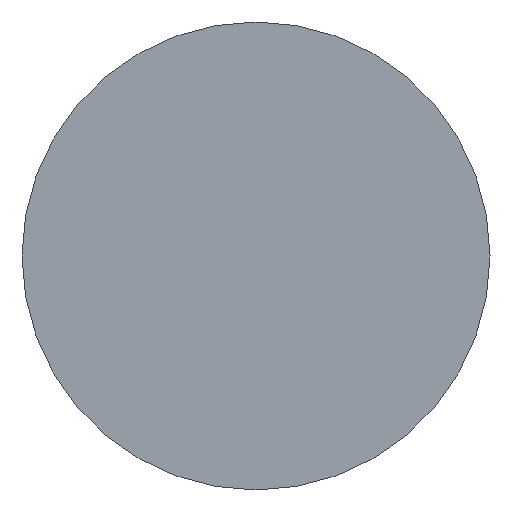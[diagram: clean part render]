
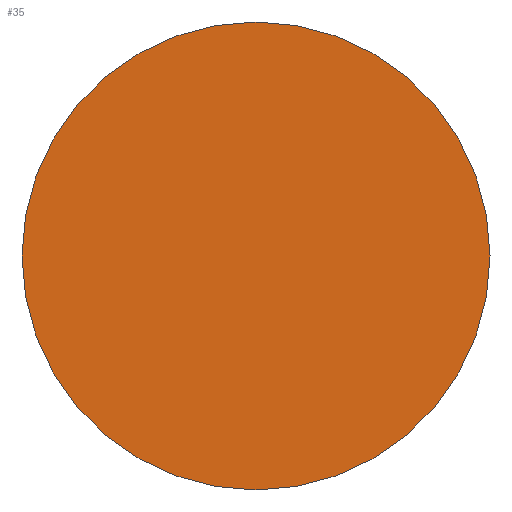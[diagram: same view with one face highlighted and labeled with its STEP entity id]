
A CAD part, front view. The second image highlights one B-rep face of the part: STEP entity #35.
In plain terms, the highlighted planar face has unit normal (0, -1, 0).
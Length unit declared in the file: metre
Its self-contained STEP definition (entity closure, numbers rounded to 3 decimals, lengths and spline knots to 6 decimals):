
#13=PLANE('',#53);
#17=ORIENTED_EDGE('',*,*,#19,.F.);
#19=EDGE_CURVE('',#21,#21,#23,.T.);
#21=VERTEX_POINT('',#71);
#23=CIRCLE('',#51,0.0035);
#27=EDGE_LOOP('',(#17));
#31=FACE_BOUND('',#27,.T.);
#35=ADVANCED_FACE('',(#31),#13,.F.);
#51=AXIS2_PLACEMENT_3D('',#70,#60,#61);
#53=AXIS2_PLACEMENT_3D('',#73,#64,#65);
#60=DIRECTION('',(0.,1.,0.));
#61=DIRECTION('',(-1.,0.,0.));
#64=DIRECTION('',(0.,1.,0.));
#65=DIRECTION('',(-1.,0.,0.));
#70=CARTESIAN_POINT('',(0.,0.009554,-0.022644));
#71=CARTESIAN_POINT('',(-0.0035,0.009554,-0.022644));
#73=CARTESIAN_POINT('',(0.,0.009554,-0.021916));
